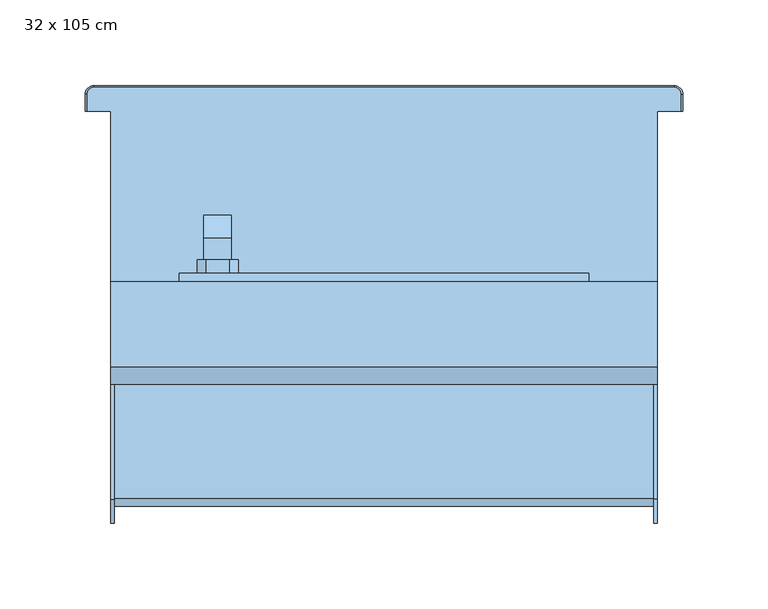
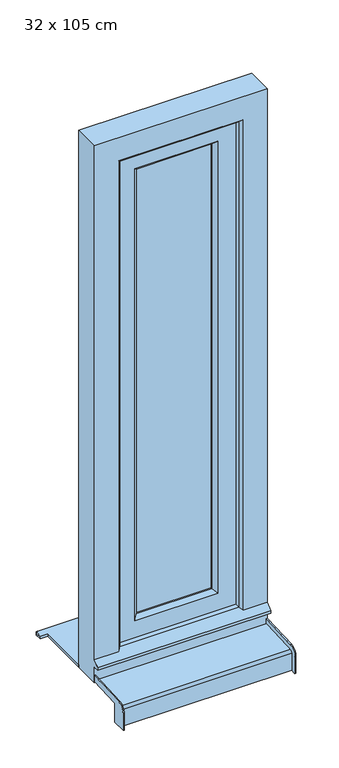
"""IFC4 building model written with IfcOpenShell, lengths in millimetres: window geometry, Fenêtre type 1 : 32 x 105 cm."""

from ifc_helpers import new_model, si_unit, frame, origin, place, context, project, spatial, polyline, circle_curve, outline, extrude, faceted_brep, source, transform, mapped, element, save
from ifc_brep_helpers import plane_surface, cylinder_surface, revolved_surface, advanced_brep


def window_32_x_105_cm_5f7314da(model_context):
    return source(origin(), model_context, "Body", "SolidModel", [
        faceted_brep([(-105.5, 13.0, 1306.0), (-105.5, 13.0, 1294.0), (-89.5, 13.0, 1294.0), (-89.5, 13.0, 1306.0), (-89.5, 25.4852814, 1306.0), (-105.5, 25.4852814, 1306.0), (-89.5, 20.5147186, 1294.0), (-89.5, 27.0, 1287.5147186), (-89.5, 27.0, 1287.2282668), (-89.5, 29.7580139, 1208.5355339), (-89.5, 39.0, 1208.5355339), (-89.5, 39.0, 1292.4852814), (-105.5, 20.5147186, 1294.0), (-105.5, 39.0, 1292.4852814), (-105.5, 39.0, 1208.5355339), (-105.5, 29.7580139, 1208.5355339), (-105.5, 27.0099909, 1287.2286157), (-105.5, 27.0, 1287.5147186), (-93.0355339, 39.0, 1205.0), (-93.0355339, 29.8814775, 1205.0), (-101.9644661, 29.8814775, 1205.0), (-101.9644661, 39.0, 1205.0)], [[[0, 1, 2, 3]], [[3, 4, 5, 0]], [[2, 6, 7, 8, 9, 10, 11, 4, 3]], [[1, 12, 6, 2]], [[0, 5, 13, 14, 15, 16, 17, 12, 1]], [[4, 11, 13, 5]], [[6, 12, 17, 7]], [[18, 19, 20, 21]], [[11, 10, 18, 21, 14, 13]], [[17, 16, 8, 7]], [[16, 15, 20, 19, 9, 8]], [[9, 19, 18, 10]], [[14, 21, 20, 15]]]),
        extrude(outline(polyline([(1330.0, -104.5), (1325.0, -109.5), (1275.0, -109.5), (1270.0, -104.5), (1270.0, -90.5), (1275.0, -85.5), (1325.0, -85.5), (1330.0, -90.5), (1330.0, -104.5)])), frame((0.0, 5.0, 0.0), z_axis=(0.0, 1.0, 0.0), x_axis=(0.0, 0.0, 1.0)), (0.0, 0.0, 1.0), 8.0),
        advanced_brep(
        [(-160.0, -115.0, 762.0), (-160.0, -141.5, 762.0), (-160.0, -141.5, 795.1063906), (-160.0, -127.2850393, 810.0858337), (-160.0, -50.0, 814.1361709), (-160.0, -50.0, 802.620389), (-160.0, -115.0, 799.2138833), (160.0, -115.0, 799.2138833), (160.0, -50.0, 802.620389), (160.0, -50.0, 814.1361709), (160.0, -127.2850393, 810.0858337), (160.0, -141.5, 795.1063906), (160.0, -141.5, 762.0), (160.0, -115.0, 762.0), (-158.0, -50.0, 814.1361709), (-158.0, -50.0, 804.1224475), (158.0, -50.0, 804.1224475), (158.0, -50.0, 814.1361709), (-158.0, -126.7616798, 800.0995383), (158.0, -126.7616798, 800.0995383), (158.0, -131.5, 795.1063906), (-158.0, -131.5, 795.1063906), (-158.0, -131.5, 762.0), (158.0, -131.5, 762.0), (-158.0, -130.0, 762.0), (158.0, -130.0, 762.0), (158.0, -115.0, 762.0), (158.0, -141.5, 762.0), (-158.0, -141.5, 762.0), (-158.0, -115.0, 762.0), (-158.0, -120.0, 772.0), (158.0, -120.0, 772.0), (-158.0, -121.0606602, 773.0606602), (158.0, -121.0606602, 773.0606602), (-158.0, -130.0, 764.1213203), (158.0, -130.0, 764.1213203), (-158.0, -130.0, 795.0728058), (158.0, -130.0, 795.0728058), (-158.0, -115.0, 799.2138833), (158.0, -115.0, 799.2138833), (158.0, -126.649637, 798.6033517), (-158.0, -126.649637, 798.6033517), (158.0, -141.5, 795.1063906), (158.0, -127.2850393, 810.0858337), (-158.0, -127.2850393, 810.0858337), (-158.0, -141.5, 795.1063906)],
        [
            (0, 1),
            (1, 2),
            (2, 3, circle_curve(frame((-160.0, -126.5, 795.1063906), z_axis=(-1.0, 0.0, 0.0), x_axis=(0.0, -0.05233595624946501, 0.9986295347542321)), 15.0)),
            (3, 4),
            (4, 5),
            (5, 6),
            (6, 0),
            (7, 8),
            (8, 9),
            (9, 10),
            (10, 11, circle_curve(frame((160.0, -126.5, 795.1063906), z_axis=(1.0, 0.0, 0.0), x_axis=(0.0, -1.0, 0.0)), 15.0)),
            (11, 12),
            (12, 13),
            (13, 7),
            (14, 15),
            (15, 16),
            (16, 17),
            (17, 9),
            (8, 5),
            (4, 14),
            (18, 19),
            (19, 16),
            (15, 18),
            (20, 21),
            (21, 22),
            (22, 23),
            (23, 20),
            (24, 25),
            (25, 26),
            (26, 13),
            (12, 27),
            (27, 23),
            (22, 28),
            (28, 1),
            (0, 29),
            (29, 24),
            (30, 31),
            (31, 25),
            (24, 30),
            (32, 33),
            (33, 31),
            (30, 32),
            (34, 35),
            (35, 33),
            (32, 34),
            (36, 37),
            (37, 35),
            (34, 36),
            (38, 6),
            (7, 39),
            (39, 40),
            (40, 41),
            (41, 38),
            (41, 36, circle_curve(frame((-158.0, -126.4646089, 795.0728058), z_axis=(1.0, 0.0, 0.0), x_axis=(0.0, 1.0, 0.0)), 3.5353911)),
            (29, 38),
            (37, 40, circle_curve(frame((158.0, -126.4646089, 795.0728058), z_axis=(-1.0, 0.0, 0.0), x_axis=(0.0, 1.0, 0.0)), 3.5353911)),
            (39, 26),
            (18, 21, circle_curve(frame((-158.0, -126.5, 795.1063906), z_axis=(1.0, 0.0, 0.0), x_axis=(0.0, 1.0, 0.0)), 5.0)),
            (20, 19, circle_curve(frame((158.0, -126.5, 795.1063906), z_axis=(-1.0, 0.0, 0.0), x_axis=(0.0, 1.0, 0.0)), 5.0)),
            (27, 42),
            (42, 43, circle_curve(frame((158.0, -126.5, 795.1063906), z_axis=(-1.0, 0.0, 0.0), x_axis=(0.0, -1.0, 0.0)), 15.0)),
            (43, 17),
            (11, 42),
            (10, 43),
            (14, 44),
            (44, 45, circle_curve(frame((-158.0, -126.5, 795.1063906), z_axis=(1.0, 0.0, 0.0), x_axis=(0.0, -0.05233595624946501, 0.9986295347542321)), 15.0)),
            (45, 28),
            (3, 44),
            (2, 45),
        ],
        [
            plane_surface(frame((-160.0, -50.0, 802.620389), z_axis=(-1.0, 0.0, 0.0), x_axis=(0.0, 0.0, 1.0))),
            plane_surface(frame((160.0, -50.0, 802.620389), z_axis=(1.0, 0.0, 0.0), x_axis=(0.0, 0.0, -1.0))),
            plane_surface(frame((-160.0, -50.0, 802.620389), z_axis=(0.0, 1.0, 0.0), x_axis=(1.0, 0.0, 0.0))),
            plane_surface(frame((-160.0, -50.0, 804.1224475), z_axis=(0.0, -0.05233595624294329, 0.9986295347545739), x_axis=(1.0, 0.0, 0.0))),
            plane_surface(frame((-160.0, -131.5, 795.1063906), z_axis=(0.0, -1.0, 0.0), x_axis=(1.0, 0.0, 0.0))),
            plane_surface(frame((-160.0, -131.5, 762.0), z_axis=(0.0, 0.0, -1.0), x_axis=(1.0, 0.0, 0.0))),
            plane_surface(frame((-160.0, -130.0, 762.0), z_axis=(0.0, 0.7071067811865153, -0.7071067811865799), x_axis=(1.0, 0.0, 0.0))),
            plane_surface(frame((-160.0, -120.0, 772.0), z_axis=(0.0, 0.7071067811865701, 0.707106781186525), x_axis=(1.0, 0.0, 0.0))),
            plane_surface(frame((-160.0, -121.0606602, 773.0606602), z_axis=(0.0, -0.7071067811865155, 0.7071067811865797), x_axis=(1.0, 0.0, 0.0))),
            plane_surface(frame((-160.0, -130.0, 764.1213203), z_axis=(0.0, 1.0, 0.0), x_axis=(1.0, 0.0, 0.0))),
            plane_surface(frame((-160.0, -126.649637, 798.6033517), z_axis=(0.0, 0.05233595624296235, -0.998629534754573), x_axis=(1.0, 0.0, 0.0))),
            plane_surface(frame((-158.0, -130.0, 798.4277666), z_axis=(1.0, 0.0, 0.0), x_axis=(0.0, 0.9986295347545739, 0.05233595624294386))),
            plane_surface(frame((-160.0, -115.0, 762.0), z_axis=(0.0, 1.0, 0.0), x_axis=(1.0, 0.0, 0.0))),
            plane_surface(frame((158.0, -130.0, 798.4277666), z_axis=(-1.0, 0.0, 0.0), x_axis=(0.0, 0.0, -1.0))),
            plane_surface(frame((158.0, -115.0, 762.0), z_axis=(0.0, 1.0, 0.0), x_axis=(1.0, 0.0, 0.0))),
            cylinder_surface(frame((160.0, -126.5, 795.1063906), z_axis=(-1.0, 0.0, 0.0), x_axis=(0.0, 1.0, 0.0)), 5.0),
            revolved_surface(polyline([(158.0, -122.9292178, 795.0728058), (-158.0, -122.9292178, 795.0728058)]), (160.0, -126.4646089, 795.0728058), (1.0, 0.0, 0.0)),
            plane_surface(frame((158.0, -131.5, 762.0), z_axis=(-1.0, 0.0, 0.0), x_axis=(0.0, 0.0, 1.0))),
            plane_surface(frame((158.0, -141.5, 762.0), z_axis=(0.0, -1.0, 0.0), x_axis=(0.0, 0.0, 1.0))),
            cylinder_surface(frame((160.0, -126.5, 795.1063906), z_axis=(1.0, 0.0, 0.0), x_axis=(0.0, -1.0, 0.0)), 15.0),
            plane_surface(frame((158.0, -127.2850393, 810.0858337), z_axis=(0.0, -0.05233595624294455, 0.9986295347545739), x_axis=(0.0, 0.9986295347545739, 0.05233595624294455))),
            plane_surface(frame((-158.0, -50.0, 814.1361709), z_axis=(1.0, 0.0, 0.0), x_axis=(0.0, 0.9986295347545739, 0.05233595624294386))),
            plane_surface(frame((-160.0, -50.0, 814.1361709), z_axis=(0.0, -0.05233595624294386, 0.9986295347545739), x_axis=(1.0, 0.0, 0.0))),
            cylinder_surface(frame((-160.0, -126.5, 795.1063906), z_axis=(-1.0, 0.0, 0.0), x_axis=(0.0, -0.05233595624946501, 0.9986295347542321)), 15.0),
            plane_surface(frame((-158.0, -141.5, 795.1063906), z_axis=(0.0, -1.0, 0.0), x_axis=(0.0, 0.0, -1.0))),
        ],
        [
            (0, [[1, 2, 3, 4, 5, 6, 7]]),
            (1, [[8, 9, 10, 11, 12, 13, 14]]),
            (2, [[15, 16, 17, 18, -9, 19, -5, 20]]),
            (3, [[21, 22, -16, 23]]),
            (4, [[24, 25, 26, 27]]),
            (5, [[28, 29, 30, -13, 31, 32, -26, 33, 34, -1, 35, 36]]),
            (6, [[37, 38, -28, 39]]),
            (7, [[40, 41, -37, 42]]),
            (8, [[43, 44, -40, 45]]),
            (9, [[46, 47, -43, 48]]),
            (10, [[49, -6, -19, -8, 50, 51, 52, 53]]),
            (11, [[-53, 54, -48, -45, -42, -39, -36, 55]]),
            (12, [[-35, -7, -49, -55]]),
            (13, [[-38, -41, -44, -47, 56, -51, 57, -29]]),
            (14, [[-50, -14, -30, -57]]),
            (15, [[-21, 58, -24, 59]]),
            (16, [[-52, -56, -46, -54]]),
            (17, [[60, 61, 62, -17, -22, -59, -27, -32]]),
            (18, [[-12, 63, -60, -31]]),
            (19, [[64, -61, -63, -11]]),
            (20, [[-10, -18, -62, -64]]),
            (21, [[65, 66, 67, -33, -25, -58, -23, -15]]),
            (22, [[68, -65, -20, -4]]),
            (23, [[69, -66, -68, -3]]),
            (24, [[-34, -67, -69, -2]]),
        ],
    ),
        extrude(outline(polyline([(-70.0, -5.0), (70.0, -5.0), (70.0, -25.0), (-70.0, -25.0), (-70.0, -5.0)])), frame((0.0, 0.0, 890.0), z_axis=(0.0, 0.0, 1.0), x_axis=(1.0, 0.0, 0.0)), (0.0, 0.0, 1.0), 870.0),
        faceted_brep([(-120.0, 5.0, 840.0), (120.0, 5.0, 840.0), (120.0, -35.0, 840.0), (-120.0, -35.0, 840.0), (120.0, 5.0, 1810.0), (120.0, -35.0, 1810.0), (-120.0, -35.0, 1810.0), (77.0710678, -35.0, 1767.0710678), (77.0710678, -35.0, 882.9289322), (-77.0710678, -35.0, 882.9289322), (-77.0710678, -35.0, 1767.0710678), (-120.0, 5.0, 1810.0), (77.0710678, 5.0, 882.9289322), (77.0710678, 5.0, 1767.0710678), (-77.0710678, 5.0, 1767.0710678), (-77.0710678, 5.0, 882.9289322), (-70.0, -2.0710678, 890.0), (70.0, -2.0710678, 890.0), (70.0, -2.0710678, 1760.0), (70.0, -27.9289322, 890.0), (70.0, -27.9289322, 1760.0), (-70.0, -27.9289322, 890.0), (-70.0, -2.0710678, 1760.0), (-70.0, -27.9289322, 1760.0)], [[[0, 1, 2, 3]], [[1, 4, 5, 2]], [[2, 5, 6, 3], [7, 8, 9, 10]], [[4, 1, 0, 11], [12, 13, 14, 15]], [[16, 17, 12, 15]], [[17, 18, 13, 12]], [[19, 20, 18, 17]], [[9, 8, 19, 21]], [[8, 7, 20, 19]], [[11, 0, 3, 6]], [[22, 16, 15, 14]], [[23, 21, 16, 22]], [[10, 9, 21, 23]], [[21, 19, 17, 16]], [[4, 11, 6, 5]], [[18, 22, 14, 13]], [[7, 10, 23, 20]], [[20, 23, 22, 18]]]),
        faceted_brep([(160.0, -50.0, 800.0), (160.0, 0.0, 800.0), (160.0, 0.0, 1850.0), (160.0, -50.0, 1850.0), (160.0, -50.0, 845.0), (160.0, -60.0, 835.0), (160.0, -60.0, 830.0), (160.0, -50.0, 830.0), (-160.0, -50.0, 830.0), (-160.0, -50.0, 800.0), (-160.0, -60.0, 830.0), (-160.0, -60.0, 835.0), (115.0, -50.0, 845.0), (110.0, -45.0, 850.0), (-110.0, -45.0, 850.0), (-115.0, -50.0, 845.0), (-160.0, -50.0, 845.0), (-160.0, -50.0, 1850.0), (-115.0, -50.0, 1805.0), (115.0, -50.0, 1805.0), (-160.0, 0.0, 800.0), (-160.0, 0.0, 1850.0), (120.0, 0.0, 840.0), (120.0, 0.0, 1810.0), (-120.0, 0.0, 1810.0), (-120.0, 0.0, 840.0), (-120.0, -35.0, 840.0), (120.0, -35.0, 840.0), (-120.0, -35.0, 1810.0), (120.0, -35.0, 1810.0), (110.0, -35.0, 850.0), (110.0, -35.0, 1800.0), (-110.0, -35.0, 1800.0), (-110.0, -35.0, 850.0), (-110.0, -45.0, 1800.0), (110.0, -45.0, 1800.0)], [[[0, 1, 2, 3, 4, 5, 6, 7]], [[7, 8, 9, 0]], [[6, 10, 8, 7]], [[5, 11, 10, 6]], [[5, 4, 12, 13, 14, 15, 16, 11]], [[17, 16, 15, 18, 19, 12, 4, 3]], [[1, 20, 21, 2], [22, 23, 24, 25]], [[0, 9, 20, 1]], [[9, 8, 10, 11, 16, 17, 21, 20]], [[25, 26, 27, 22]], [[26, 25, 24, 28]], [[22, 27, 29, 23]], [[29, 27, 26, 28], [30, 31, 32, 33]], [[33, 14, 13, 30]], [[34, 14, 33, 32]], [[31, 30, 13, 35]], [[35, 13, 12, 19]], [[18, 15, 14, 34]], [[3, 2, 21, 17]], [[28, 24, 23, 29]], [[18, 34, 35, 19]], [[31, 35, 34, 32]]]),
        advanced_brep(
        [(160.0, 100.0, 805.0), (173.9971508, 100.0, 805.0), (173.9971508, 110.0, 805.0), (170.0, 113.9971508, 805.0), (-170.0, 113.9971508, 805.0), (-173.9971508, 110.0, 805.0), (-173.9971508, 100.0, 805.0), (-160.0, 100.0, 805.0), (-160.0, 0.0, 805.0), (160.0, 0.0, 805.0), (-160.0, 100.0, 800.0), (-173.9971508, 100.0, 800.0), (-173.9971508, 110.0, 800.0), (-170.0, 113.9971508, 800.0), (170.0, 113.9971508, 800.0), (173.9971508, 110.0, 800.0), (173.9971508, 100.0, 800.0), (160.0, 100.0, 800.0), (160.0, 0.0, 800.0), (-160.0, 0.0, 800.0), (-175.0, 110.0, 801.0028492), (-175.0, 100.0, 801.0028492), (-175.0, 100.0, 803.9971508), (-175.0, 110.0, 803.9971508), (175.0, 100.0, 801.0028492), (175.0, 100.0, 803.9971508), (175.0, 110.0, 801.0028492), (175.0, 110.0, 803.9971508), (170.0, 115.0, 801.0028492), (-170.0, 115.0, 801.0028492), (-170.0, 115.0, 803.9971508), (170.0, 115.0, 803.9971508)],
        [
            (0, 1),
            (1, 2),
            (2, 3, circle_curve(frame((170.0, 110.0, 805.0), z_axis=(0.0, 0.0, 1.0), x_axis=(0.0, 1.0, 0.0)), 3.9971508)),
            (3, 4),
            (4, 5, circle_curve(frame((-170.0, 110.0, 805.0), z_axis=(0.0, 0.0, 1.0), x_axis=(-1.0, 0.0, 0.0)), 3.9971508)),
            (5, 6),
            (6, 7),
            (7, 8),
            (8, 9),
            (9, 0),
            (10, 11),
            (11, 12),
            (12, 13, circle_curve(frame((-170.0, 110.0, 800.0), z_axis=(0.0, 0.0, -1.0), x_axis=(-1.0, 0.0, 0.0)), 3.9971508)),
            (13, 14),
            (14, 15, circle_curve(frame((170.0, 110.0, 800.0), z_axis=(0.0, 0.0, -1.0), x_axis=(0.0, 1.0, 0.0)), 3.9971508)),
            (15, 16),
            (16, 17),
            (17, 18),
            (18, 19),
            (19, 10),
            (20, 21),
            (21, 22),
            (22, 23),
            (23, 20),
            (6, 22),
            (21, 11),
            (10, 7),
            (19, 8),
            (18, 9),
            (17, 0),
            (16, 24),
            (24, 25),
            (25, 1),
            (24, 26),
            (26, 27),
            (27, 25),
            (28, 29),
            (29, 30),
            (30, 31),
            (31, 28),
            (31, 27, circle_curve(frame((170.0, 110.0, 803.9971508), z_axis=(0.0, 0.0, -1.0), x_axis=(0.0, 1.0, 0.0)), 5.0)),
            (26, 28, circle_curve(frame((170.0, 110.0, 801.0028492), z_axis=(0.0, 0.0, 1.0), x_axis=(0.0, 1.0, 0.0)), 5.0)),
            (23, 30, circle_curve(frame((-170.0, 110.0, 803.9971508), z_axis=(0.0, 0.0, -1.0), x_axis=(0.0, 1.0, 0.0)), 5.0)),
            (29, 20, circle_curve(frame((-170.0, 110.0, 801.0028492), z_axis=(0.0, 0.0, 1.0), x_axis=(0.0, 1.0, 0.0)), 5.0)),
            (5, 23),
            (20, 12),
            (4, 30),
            (29, 13),
            (3, 31),
            (28, 14),
            (2, 27),
            (26, 15),
        ],
        [
            plane_surface(frame((-175.0, 100.0, 805.0), z_axis=(0.0, 0.0, 1.0), x_axis=(0.0, 1.0, 0.0))),
            plane_surface(frame((-175.0, 100.0, 800.0), z_axis=(0.0, 0.0, -1.0), x_axis=(0.0, -1.0, 0.0))),
            plane_surface(frame((-175.0, 110.0, 800.0), z_axis=(-1.0, 0.0, 0.0), x_axis=(0.0, 0.0, 1.0))),
            plane_surface(frame((-175.0, 100.0, 800.0), z_axis=(0.0, -1.0, 0.0), x_axis=(0.0, 0.0, 1.0))),
            plane_surface(frame((-160.0, 100.0, 800.0), z_axis=(-1.0, 0.0, 0.0), x_axis=(0.0, 0.0, 1.0))),
            plane_surface(frame((-160.0, 0.0, 800.0), z_axis=(0.0, -1.0, 0.0), x_axis=(0.0, 0.0, 1.0))),
            plane_surface(frame((160.0, 0.0, 800.0), z_axis=(1.0, 0.0, 0.0), x_axis=(0.0, 0.0, 1.0))),
            plane_surface(frame((160.0, 100.0, 800.0), z_axis=(0.0, -1.0, 0.0), x_axis=(0.0, 0.0, 1.0))),
            plane_surface(frame((175.0, 100.0, 800.0), z_axis=(1.0, 0.0, 0.0), x_axis=(0.0, 0.0, 1.0))),
            plane_surface(frame((170.0, 115.0, 800.0), z_axis=(0.0, 1.0, 0.0), x_axis=(0.0, 0.0, 1.0))),
            cylinder_surface(frame((170.0, 110.0, 805.0), z_axis=(0.0, 0.0, -1.0), x_axis=(0.0, 1.0, 0.0)), 5.0),
            cylinder_surface(frame((-170.0, 110.0, 805.0), z_axis=(0.0, 0.0, -1.0), x_axis=(0.0, 1.0, 0.0)), 5.0),
            plane_surface(frame((-173.9971508, 100.0, 805.0), z_axis=(-0.7071067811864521, 0.0, 0.707106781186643), x_axis=(0.0, 1.0, 0.0))),
            plane_surface(frame((-175.0, 100.0, 801.0028492), z_axis=(-0.7071067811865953, 0.0, -0.7071067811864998), x_axis=(0.0, 1.0, 0.0))),
            revolved_surface(polyline([(-175.0, 110.0, 803.9971508), (-173.9971508, 110.0, 805.0)]), (-170.0, 110.0, 805.0), (0.0, 0.0, 1.0)),
            revolved_surface(polyline([(-173.9971508, 110.0, 800.0), (-175.0, 110.0, 801.0028492)]), (-170.0, 110.0, 805.0), (0.0, 0.0, 1.0)),
            plane_surface(frame((-170.0, 113.9971508, 805.0), z_axis=(0.0, 0.7071067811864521, 0.707106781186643), x_axis=(1.0, 0.0, 0.0))),
            plane_surface(frame((-170.0, 115.0, 801.0028492), z_axis=(0.0, 0.7071067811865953, -0.7071067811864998), x_axis=(1.0, 0.0, 0.0))),
            revolved_surface(polyline([(170.0, 115.0, 803.9971508), (170.0, 113.9971508, 805.0)]), (170.0, 110.0, 805.0), (0.0, 0.0, 1.0)),
            revolved_surface(polyline([(170.0, 113.9971508, 800.0), (170.0, 115.0, 801.0028492)]), (170.0, 110.0, 805.0), (0.0, 0.0, 1.0)),
            plane_surface(frame((173.9971508, 110.0, 805.0), z_axis=(0.7071067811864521, 0.0, 0.707106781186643), x_axis=(0.0, -1.0, 0.0))),
            plane_surface(frame((175.0, 110.0, 801.0028492), z_axis=(0.7071067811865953, 0.0, -0.7071067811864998), x_axis=(0.0, -1.0, 0.0))),
        ],
        [
            (0, [[1, 2, 3, 4, 5, 6, 7, 8, 9, 10]]),
            (1, [[11, 12, 13, 14, 15, 16, 17, 18, 19, 20]]),
            (2, [[21, 22, 23, 24]]),
            (3, [[-7, 25, -22, 26, -11, 27]]),
            (4, [[-27, -20, 28, -8]]),
            (5, [[-28, -19, 29, -9]]),
            (6, [[-29, -18, 30, -10]]),
            (7, [[-17, 31, 32, 33, -1, -30]]),
            (8, [[34, 35, 36, -32]]),
            (9, [[37, 38, 39, 40]]),
            (10, [[41, -35, 42, -40]]),
            (11, [[43, -38, 44, -24]]),
            (12, [[-23, -25, -6, 45]]),
            (13, [[-12, -26, -21, 46]]),
            (14, [[-5, 47, -43, -45]]),
            (15, [[-44, 48, -13, -46]]),
            (16, [[-4, 49, -39, -47]]),
            (17, [[-37, 50, -14, -48]]),
            (18, [[-3, 51, -41, -49]]),
            (19, [[-42, 52, -15, -50]]),
            (20, [[-2, -33, -36, -51]]),
            (21, [[-34, -31, -16, -52]]),
        ],
    ),
    ])


if __name__ == "__main__":
    model = new_model("IFC4")
    model_context = context("Model", 3, world=origin())
    ifc_project = project(units=[si_unit("LENGTHUNIT", "METRE", prefix="MILLI")], contexts=[model_context])
    site = spatial("IfcSite", under=ifc_project)
    building = spatial("IfcBuilding", under=site)
    placement = place(None, origin())
    window_32_x_105_cm_shape = window_32_x_105_cm_5f7314da(model_context)
    element("IfcWindow", 1, ObjectType="Fenêtre type 1 : 32 x 105 cm", at=placement, inside=building, context=model_context, shape_type="MappedRepresentation", body=[
        mapped(window_32_x_105_cm_shape, transform((0.0, 0.0, 0.0), x_axis=(1.0, 0.0, 0.0), y_axis=(0.0, 1.0, 0.0), z_axis=(0.0, 0.0, 1.0))),
    ])
    save(model, "model.ifc")
